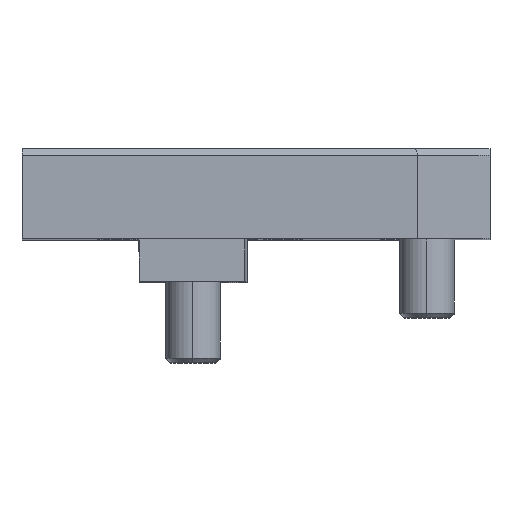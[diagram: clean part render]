
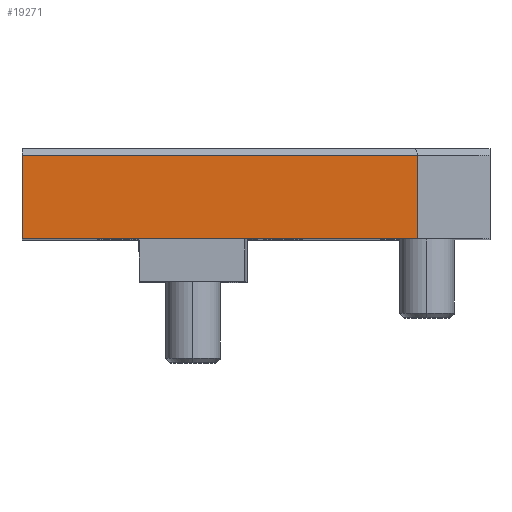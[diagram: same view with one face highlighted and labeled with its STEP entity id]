
A CAD part, top view. The second image highlights one B-rep face of the part: STEP entity #19271.
In plain terms, the highlighted planar face has unit normal (0, 0, 1) as drawn and (-1, 0, 0) by its records, which use the part's own axes.
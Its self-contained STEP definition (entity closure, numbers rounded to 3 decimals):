
#36 = DIRECTION ( 'NONE',  ( 1., 0., 0. ) ) ;
#350 = CARTESIAN_POINT ( 'NONE',  ( -94.5, 20., 88. ) ) ;
#1765 = ORIENTED_EDGE ( 'NONE', *, *, #19928, .T. ) ;
#2308 = EDGE_CURVE ( 'NONE', #12667, #10087, #9609, .T. ) ;
#3016 = CARTESIAN_POINT ( 'NONE',  ( -94.5, 18.5, 0. ) ) ;
#3078 = AXIS2_PLACEMENT_3D ( 'NONE', #9583, #36, #5664 ) ;
#3414 = DIRECTION ( 'NONE',  ( 0., 0., 1. ) ) ;
#4016 = ORIENTED_EDGE ( 'NONE', *, *, #2308, .T. ) ;
#4684 = LINE ( 'NONE', #20620, #15542 ) ;
#5664 = DIRECTION ( 'NONE',  ( 0., 0., -1. ) ) ;
#5827 = VERTEX_POINT ( 'NONE', #23633 ) ;
#6069 = CARTESIAN_POINT ( 'NONE',  ( -94.5, 0., 88. ) ) ;
#6583 = ORIENTED_EDGE ( 'NONE', *, *, #23467, .T. ) ;
#7205 = CARTESIAN_POINT ( 'NONE',  ( -94.5, 0., 0. ) ) ;
#7864 = VECTOR ( 'NONE', #10977, 1000. ) ;
#8022 = LINE ( 'NONE', #3016, #12521 ) ;
#8127 = EDGE_LOOP ( 'NONE', ( #4016, #6583, #1765, #11070 ) ) ;
#8267 = DIRECTION ( 'NONE',  ( 0., 1., 0. ) ) ;
#8493 = LINE ( 'NONE', #20573, #7864 ) ;
#8512 = FACE_OUTER_BOUND ( 'NONE', #8127, .T. ) ;
#8972 = DIRECTION ( 'NONE',  ( 0., 0., -1. ) ) ;
#9583 = CARTESIAN_POINT ( 'NONE',  ( -94.5, 20., 0. ) ) ;
#9609 = LINE ( 'NONE', #350, #16190 ) ;
#10087 = VERTEX_POINT ( 'NONE', #23309 ) ;
#10977 = DIRECTION ( 'NONE',  ( 0., -1., 0. ) ) ;
#11070 = ORIENTED_EDGE ( 'NONE', *, *, #24638, .T. ) ;
#12521 = VECTOR ( 'NONE', #8972, 1000. ) ;
#12667 = VERTEX_POINT ( 'NONE', #6069 ) ;
#14846 = VERTEX_POINT ( 'NONE', #7205 ) ;
#15542 = VECTOR ( 'NONE', #3414, 1000. ) ;
#16190 = VECTOR ( 'NONE', #8267, 1000. ) ;
#19271 = ADVANCED_FACE ( 'NONE', ( #8512 ), #21227, .F. ) ;
#19928 = EDGE_CURVE ( 'NONE', #5827, #14846, #8493, .T. ) ;
#20573 = CARTESIAN_POINT ( 'NONE',  ( -94.5, 20., 0. ) ) ;
#20620 = CARTESIAN_POINT ( 'NONE',  ( -94.5, 0., 0. ) ) ;
#21227 = PLANE ( 'NONE',  #3078 ) ;
#23309 = CARTESIAN_POINT ( 'NONE',  ( -94.5, 18.5, 88. ) ) ;
#23467 = EDGE_CURVE ( 'NONE', #10087, #5827, #8022, .T. ) ;
#23633 = CARTESIAN_POINT ( 'NONE',  ( -94.5, 18.5, 0. ) ) ;
#24638 = EDGE_CURVE ( 'NONE', #14846, #12667, #4684, .T. ) ;
